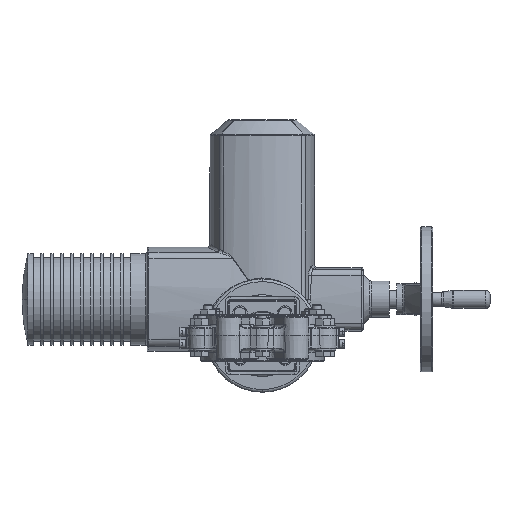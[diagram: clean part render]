
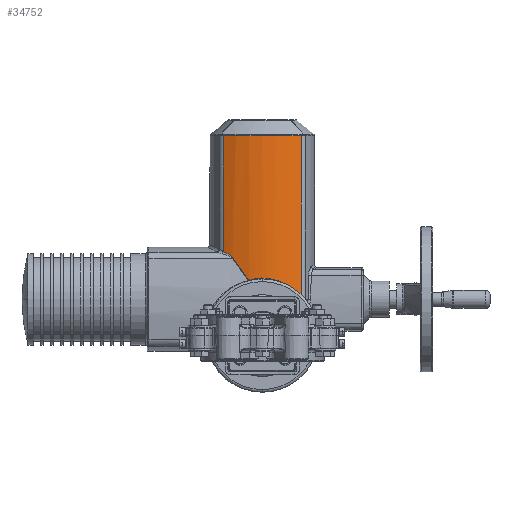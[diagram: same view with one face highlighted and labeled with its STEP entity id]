
A CAD part, front view. The second image highlights one B-rep face of the part: STEP entity #34752.
In plain terms, the highlighted cylindrical face has radius 100 mm (diameter 200 mm), a partial arc.
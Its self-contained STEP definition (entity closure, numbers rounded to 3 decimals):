
#520 = CARTESIAN_POINT ( 'NONE',  ( -14.967, 411.126, 60.881 ) ) ;
#1542 = CARTESIAN_POINT ( 'NONE',  ( -2.243, 410.018, 63.226 ) ) ;
#2036 = CARTESIAN_POINT ( 'NONE',  ( 24.662, 413.087, 56.561 ) ) ;
#5451 = CARTESIAN_POINT ( 'NONE',  ( -33.985, 415.951, 87.329 ) ) ;
#5759 = CARTESIAN_POINT ( 'NONE',  ( -14.967, 411.126, 60.881 ) ) ;
#6570 = DIRECTION ( 'NONE',  ( 1., 0., 0. ) ) ;
#10500 = CYLINDRICAL_SURFACE ( 'NONE', #126979, 100. ) ;
#11558 = CARTESIAN_POINT ( 'NONE',  ( 40.164, 418.419, 46.232 ) ) ;
#13370 = CARTESIAN_POINT ( 'NONE',  ( 3.673, 410.04, 63.181 ) ) ;
#13889 = CARTESIAN_POINT ( 'NONE',  ( 27.641, 413.874, 54.766 ) ) ;
#15410 = EDGE_CURVE ( 'NONE', #42831, #61887, #63159, .T. ) ;
#16865 = VERTEX_POINT ( 'NONE', #113483 ) ;
#17327 = CARTESIAN_POINT ( 'NONE',  ( -32.772, 415.521, 86.153 ) ) ;
#23427 = CARTESIAN_POINT ( 'NONE',  ( 42.296, 419.381, 44.907 ) ) ;
#25265 = CARTESIAN_POINT ( 'NONE',  ( 8.354, 410.343, 62.546 ) ) ;
#25763 = CARTESIAN_POINT ( 'NONE',  ( 33.093, 415.616, 50.604 ) ) ;
#29009 = B_SPLINE_CURVE_WITH_KNOTS ( 'NONE', 3,
 ( #145496, #122860, #52403, #134633, #64199, #146512, #76092, #5451, #87884, #17327, #99639, #29206 ),
 .UNSPECIFIED., .F., .F.,
 ( 4, 2, 2, 2, 2, 4 ),
 ( 0., 0.003, 0.007, 0.01, 0.012, 0.014 ),
 .UNSPECIFIED. ) ;
#29206 = CARTESIAN_POINT ( 'NONE',  ( -32.064, 415.28, 85.242 ) ) ;
#33124 = CARTESIAN_POINT ( 'NONE',  ( 37.791, 417.416, 47.097 ) ) ;
#34719 = ORIENTED_EDGE ( 'NONE', *, *, #61825, .T. ) ;
#34752 = ADVANCED_FACE ( 'NONE', ( #52963 ), #10500, .T. ) ;
#37129 = CARTESIAN_POINT ( 'NONE',  ( 11.825, 410.695, 61.802 ) ) ;
#37621 = CARTESIAN_POINT ( 'NONE',  ( 36.396, 416.858, 47.439 ) ) ;
#40560 = CARTESIAN_POINT ( 'NONE',  ( 37.328, 417.227, 47.213 ) ) ;
#42831 = VERTEX_POINT ( 'NONE', #33124 ) ;
#43216 = AXIS2_PLACEMENT_3D ( 'NONE', #147637, #77209, #6570 ) ;
#44560 = CIRCLE ( 'NONE', #43216, 100. ) ;
#44697 = CARTESIAN_POINT ( 'NONE',  ( -26.44, 413.376, 77.158 ) ) ;
#49016 = CARTESIAN_POINT ( 'NONE',  ( 17.386, 411.499, 60.082 ) ) ;
#50562 = EDGE_CURVE ( 'NONE', #114785, #61887, #148214, .T. ) ;
#52403 = CARTESIAN_POINT ( 'NONE',  ( -41.052, 418.808, 91.582 ) ) ;
#52582 = ORIENTED_EDGE ( 'NONE', *, *, #15410, .T. ) ;
#52963 = FACE_OUTER_BOUND ( 'NONE', #104331, .T. ) ;
#54663 = CARTESIAN_POINT ( 'NONE',  ( 0., 510., 237.75 ) ) ;
#56481 = CARTESIAN_POINT ( 'NONE',  ( -14.967, 411.126, 60.881 ) ) ;
#56600 = EDGE_CURVE ( 'NONE', #133266, #74731, #29009, .T. ) ;
#56684 = B_SPLINE_CURVE_WITH_KNOTS ( 'NONE', 3,
 ( #99133, #134133, #40560, #122853 ),
 .UNSPECIFIED., .F., .F.,
 ( 4, 4 ),
 ( 0.008, 0.009 ),
 .UNSPECIFIED. ) ;
#57961 = CARTESIAN_POINT ( 'NONE',  ( 43.041, 419.737, 237.75 ) ) ;
#57994 = VECTOR ( 'NONE', #138287, 1000. ) ;
#59383 = CARTESIAN_POINT ( 'NONE',  ( 43.041, 419.737, 220.035 ) ) ;
#60285 = CARTESIAN_POINT ( 'NONE',  ( -6.964, 410.236, 62.77 ) ) ;
#60795 = CARTESIAN_POINT ( 'NONE',  ( 21.604, 412.356, 58.202 ) ) ;
#61825 = EDGE_CURVE ( 'NONE', #74731, #108471, #124948, .T. ) ;
#61887 = VERTEX_POINT ( 'NONE', #139349 ) ;
#63159 = B_SPLINE_CURVE_WITH_KNOTS ( 'NONE', 3,
 ( #104720, #128915, #152653, #82170, #11558, #93932, #23427, #105771 ),
 .UNSPECIFIED., .F., .F.,
 ( 4, 2, 2, 4 ),
 ( 0., 0.002, 0.003, 0.007 ),
 .UNSPECIFIED. ) ;
#64199 = CARTESIAN_POINT ( 'NONE',  ( -38.126, 417.548, 90.142 ) ) ;
#65131 = ORIENTED_EDGE ( 'NONE', *, *, #50562, .F. ) ;
#65746 = ORIENTED_EDGE ( 'NONE', *, *, #149556, .T. ) ;
#67023 = DIRECTION ( 'NONE',  ( 0., 0., -1. ) ) ;
#67063 = ORIENTED_EDGE ( 'NONE', *, *, #145892, .T. ) ;
#67546 = DIRECTION ( 'NONE',  ( -1., 0., 0. ) ) ;
#72129 = CARTESIAN_POINT ( 'NONE',  ( -3.436, 410.052, 63.155 ) ) ;
#72582 = VECTOR ( 'NONE', #78015, 1000. ) ;
#72636 = CARTESIAN_POINT ( 'NONE',  ( 23.652, 412.836, 57.129 ) ) ;
#72741 = EDGE_CURVE ( 'NONE', #114785, #16865, #44560, .T. ) ;
#74731 = VERTEX_POINT ( 'NONE', #133706 ) ;
#76092 = CARTESIAN_POINT ( 'NONE',  ( -35.292, 416.43, 88.385 ) ) ;
#77209 = DIRECTION ( 'NONE',  ( 0., 0., -1. ) ) ;
#78015 = DIRECTION ( 'NONE',  ( 0., 0., -1. ) ) ;
#82170 = CARTESIAN_POINT ( 'NONE',  ( 39.706, 418.219, 46.448 ) ) ;
#82509 = ORIENTED_EDGE ( 'NONE', *, *, #56600, .T. ) ;
#83996 = CARTESIAN_POINT ( 'NONE',  ( 1.316, 409.981, 63.304 ) ) ;
#84492 = CARTESIAN_POINT ( 'NONE',  ( 25.164, 413.217, 56.268 ) ) ;
#87884 = CARTESIAN_POINT ( 'NONE',  ( -33.565, 415.8, 86.957 ) ) ;
#93932 = CARTESIAN_POINT ( 'NONE',  ( 41.482, 419.005, 45.502 ) ) ;
#95785 = CARTESIAN_POINT ( 'NONE',  ( 7.186, 410.252, 62.737 ) ) ;
#96294 = CARTESIAN_POINT ( 'NONE',  ( 29.519, 414.438, 53.45 ) ) ;
#99133 = CARTESIAN_POINT ( 'NONE',  ( 36.396, 416.858, 47.439 ) ) ;
#99639 = CARTESIAN_POINT ( 'NONE',  ( -32.398, 415.393, 85.723 ) ) ;
#103268 = CARTESIAN_POINT ( 'NONE',  ( -32.064, 415.28, 85.242 ) ) ;
#103848 = LINE ( 'NONE', #124760, #72582 ) ;
#104331 = EDGE_LOOP ( 'NONE', ( #67063, #82509, #34719, #65746, #113589, #52582, #65131, #135786 ) ) ;
#104720 = CARTESIAN_POINT ( 'NONE',  ( 37.791, 417.416, 47.097 ) ) ;
#105771 = CARTESIAN_POINT ( 'NONE',  ( 43.041, 419.737, 44.194 ) ) ;
#107600 = CARTESIAN_POINT ( 'NONE',  ( 10.68, 410.565, 62.077 ) ) ;
#108097 = CARTESIAN_POINT ( 'NONE',  ( 34.788, 416.23, 49.074 ) ) ;
#108471 = VERTEX_POINT ( 'NONE', #5759 ) ;
#113483 = CARTESIAN_POINT ( 'NONE',  ( -43.041, 419.737, 220.035 ) ) ;
#113589 = ORIENTED_EDGE ( 'NONE', *, *, #143023, .T. ) ;
#114785 = VERTEX_POINT ( 'NONE', #59383 ) ;
#115501 = CARTESIAN_POINT ( 'NONE',  ( 36.396, 416.858, 47.439 ) ) ;
#118919 = CARTESIAN_POINT ( 'NONE',  ( -12.724, 410.787, 61.609 ) ) ;
#119434 = CARTESIAN_POINT ( 'NONE',  ( 15.204, 411.137, 60.862 ) ) ;
#120718 = CARTESIAN_POINT ( 'NONE',  ( -43.041, 419.737, 92.391 ) ) ;
#122853 = CARTESIAN_POINT ( 'NONE',  ( 37.791, 417.416, 47.097 ) ) ;
#122860 = CARTESIAN_POINT ( 'NONE',  ( -42.042, 419.26, 92.005 ) ) ;
#124760 = CARTESIAN_POINT ( 'NONE',  ( -43.041, 419.737, 237.75 ) ) ;
#124948 = B_SPLINE_CURVE_WITH_KNOTS ( 'NONE', 3,
 ( #103268, #44697, #126993, #56481 ),
 .UNSPECIFIED., .F., .F.,
 ( 4, 4 ),
 ( 0., 0.03 ),
 .UNSPECIFIED. ) ;
#126979 = AXIS2_PLACEMENT_3D ( 'NONE', #54663, #67023, #67546 ) ;
#126993 = CARTESIAN_POINT ( 'NONE',  ( -20.733, 411.999, 69.042 ) ) ;
#128864 = VERTEX_POINT ( 'NONE', #115501 ) ;
#128915 = CARTESIAN_POINT ( 'NONE',  ( 38.283, 417.617, 46.974 ) ) ;
#130011 = B_SPLINE_CURVE_WITH_KNOTS ( 'NONE', 3,
 ( #520, #118919, #130737, #60285, #142627, #72129, #1542, #83996, #13370, #95785, #25265, #107600, #37129, #119434, #49016, #131239, #60795, #143129, #72636, #2036, #84492, #13889, #96294, #25763, #108097, #37621 ),
 .UNSPECIFIED., .F., .F.,
 ( 4, 2, 2, 2, 2, 2, 2, 2, 2, 2, 2, 2, 4 ),
 ( 0., 0.007, 0.011, 0.014, 0.021, 0.025, 0.028, 0.035, 0.039, 0.041, 0.042, 0.05, 0.057 ),
 .UNSPECIFIED. ) ;
#130737 = CARTESIAN_POINT ( 'NONE',  ( -10.443, 410.52, 62.174 ) ) ;
#131239 = CARTESIAN_POINT ( 'NONE',  ( 20.562, 412.131, 58.699 ) ) ;
#133266 = VERTEX_POINT ( 'NONE', #120718 ) ;
#133706 = CARTESIAN_POINT ( 'NONE',  ( -32.064, 415.28, 85.242 ) ) ;
#134133 = CARTESIAN_POINT ( 'NONE',  ( 36.862, 417.041, 47.327 ) ) ;
#134633 = CARTESIAN_POINT ( 'NONE',  ( -39.094, 417.952, 90.65 ) ) ;
#135786 = ORIENTED_EDGE ( 'NONE', *, *, #72741, .T. ) ;
#138287 = DIRECTION ( 'NONE',  ( 0., 0., -1. ) ) ;
#139349 = CARTESIAN_POINT ( 'NONE',  ( 43.041, 419.737, 44.194 ) ) ;
#142627 = CARTESIAN_POINT ( 'NONE',  ( -5.794, 410.161, 62.927 ) ) ;
#143023 = EDGE_CURVE ( 'NONE', #128864, #42831, #56684, .T. ) ;
#143129 = CARTESIAN_POINT ( 'NONE',  ( 23.143, 412.713, 57.404 ) ) ;
#145496 = CARTESIAN_POINT ( 'NONE',  ( -43.041, 419.737, 92.391 ) ) ;
#145892 = EDGE_CURVE ( 'NONE', #16865, #133266, #103848, .T. ) ;
#146512 = CARTESIAN_POINT ( 'NONE',  ( -36.228, 416.787, 89.011 ) ) ;
#147637 = CARTESIAN_POINT ( 'NONE',  ( 0., 510., 220.035 ) ) ;
#148214 = LINE ( 'NONE', #57961, #57994 ) ;
#149556 = EDGE_CURVE ( 'NONE', #108471, #128864, #130011, .T. ) ;
#152653 = CARTESIAN_POINT ( 'NONE',  ( 38.764, 417.818, 46.82 ) ) ;
